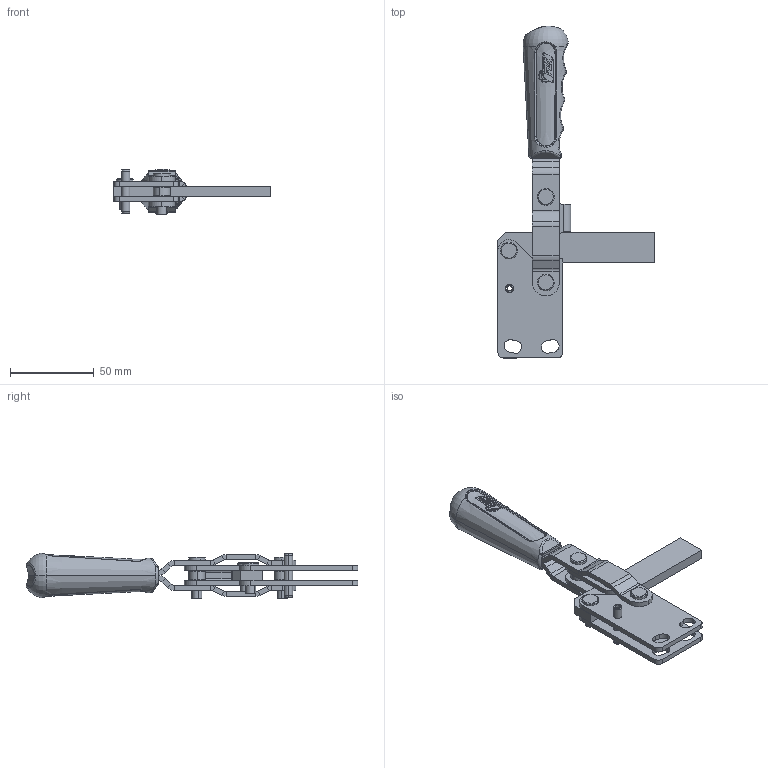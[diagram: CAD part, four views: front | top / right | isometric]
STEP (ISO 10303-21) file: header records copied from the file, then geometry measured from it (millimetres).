
FILE_DESCRIPTION (( 'STEP AP214' ), '1' );
FILE_NAME ('202_B.STEP', '2024-09-09T16:26:35', ( '' ), ( '' ), 'SwSTEP 2.0', 'SolidWorks 2023', '' );
FILE_SCHEMA (( 'AUTOMOTIVE_DESIGN' ));
Length unit declared in the file: millimetre
Products named in the file (11): TTMK_01_00; FZK_202_B_03_00; 202_B; FZK_202_B_01_00; spring pin slotted_hd_iso_Spring Pin ISO 8752 - 5 x 26 - St; FZK_202_B_04_00; FZK_202_B_06_00_202 B-07; FZK_202_B_02_00; FZK_202_B_05_00_202 B-06; FZK_202_B_07_00; FZK_202_B_02A_00
Assembly tree (15 placements, depth 3):
  202_B
    FZK_202_B_01_00  x2
    FZK_202_B_02_00
      FZK_202_B_02A_00  x2
    TTMK_01_00
    FZK_202_B_03_00
    FZK_202_B_04_00
    FZK_202_B_05_00_202 B-06  x2
    FZK_202_B_06_00_202 B-07  x2
    FZK_202_B_07_00  x2
    spring pin slotted_hd_iso_Spring Pin ISO 8752 - 5 x 26 - St
Bounding box: 94 x 197.84 x 27.37 mm (x, y, z)
Volume: 68899.6 mm3; surface area: 42907.8 mm2
Topology: 14 solids, 14 shells, 618 faces, 1506 edges, 923 vertices
Faces by surface type: bspline 211, cylinder 166, plane 164, cone 51, sphere 20, torus 6
Entity records: 27263 total; most frequent: CARTESIAN_POINT 17088, ORIENTED_EDGE 2380, DIRECTION 1482, EDGE_CURVE 1190, VERTEX_POINT 743, AXIS2_PLACEMENT_3D 595, B_SPLINE_CURVE_WITH_KNOTS 578, EDGE_LOOP 527
